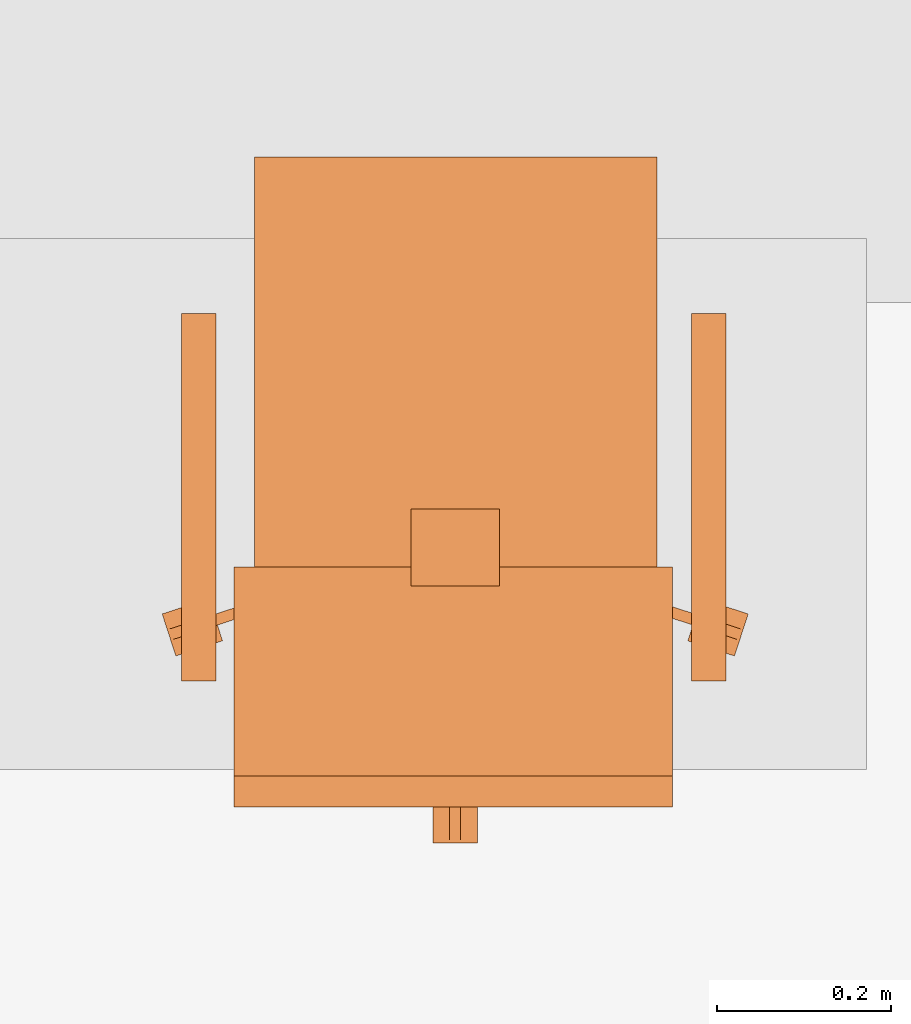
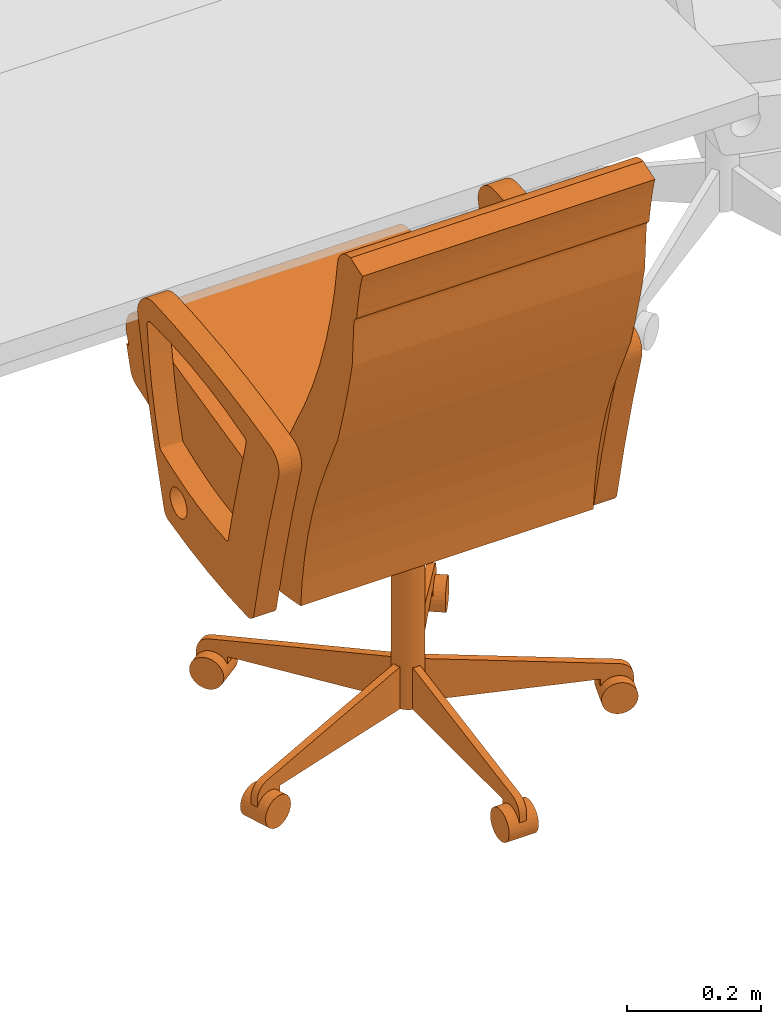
# One storey, part 31 of 142: 1 proxy.
"""IFC2X3 building model written with IfcOpenShell, lengths in feet."""

from ifc_helpers import new_model, entity, si_unit, converted_unit, derived_unit, direction, frame, frame_2d, origin, place, context, subcontext, project, spatial, polyline, circle_curve, parameter, trimmed, segment, composite_curve, circle, outline, extrude, source, transform, mapped, type_object, type_shapes, element, save


model = new_model("IFC2X3")

# Units and contexts
model_context = context("Model", 3, precision=0.0001, world=origin(), true_north=direction((6.12303176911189e-17, 1.0)))
body_context = subcontext(model_context, "Body", "Model", "MODEL_VIEW")
ifc_project = project(units=[converted_unit("LENGTHUNIT", "FOOT", entity("IfcRatioMeasure", 0.3048), si_unit("LENGTHUNIT", "METRE"), dimensions=[1, 0, 0, 0, 0, 0, 0]), converted_unit("AREAUNIT", "SQUARE FOOT", entity("IfcRatioMeasure", 0.09290304), si_unit("AREAUNIT", "SQUARE_METRE"), dimensions=[2, 0, 0, 0, 0, 0, 0]), converted_unit("VOLUMEUNIT", "CUBIC FOOT", entity("IfcRatioMeasure", 0.028316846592), si_unit("VOLUMEUNIT", "CUBIC_METRE"), dimensions=[3, 0, 0, 0, 0, 0, 0]), converted_unit("PLANEANGLEUNIT", "DEGREE", entity("IfcRatioMeasure", 0.0174532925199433), si_unit("PLANEANGLEUNIT", "RADIAN"), dimensions=[0, 0, 0, 0, 0, 0, 0]), si_unit("MASSUNIT", "GRAM", prefix="KILO"), derived_unit("MASSDENSITYUNIT", [(si_unit("MASSUNIT", "GRAM", prefix="KILO"), 1), (si_unit("LENGTHUNIT", "METRE"), -3)]), si_unit("TIMEUNIT", "SECOND"), si_unit("FREQUENCYUNIT", "HERTZ"), si_unit("THERMODYNAMICTEMPERATUREUNIT", "DEGREE_CELSIUS"), derived_unit("THERMALTRANSMITTANCEUNIT", [(si_unit("MASSUNIT", "GRAM", prefix="KILO"), 1), (si_unit("THERMODYNAMICTEMPERATUREUNIT", "KELVIN"), -1), (si_unit("TIMEUNIT", "SECOND"), -3)]), derived_unit("VOLUMETRICFLOWRATEUNIT", [(si_unit("LENGTHUNIT", "METRE"), 3), (si_unit("TIMEUNIT", "SECOND"), -1)]), si_unit("ELECTRICCURRENTUNIT", "AMPERE"), si_unit("ELECTRICVOLTAGEUNIT", "VOLT"), si_unit("POWERUNIT", "WATT"), si_unit("FORCEUNIT", "NEWTON"), si_unit("ILLUMINANCEUNIT", "LUX"), si_unit("LUMINOUSFLUXUNIT", "LUMEN"), si_unit("LUMINOUSINTENSITYUNIT", "CANDELA"), derived_unit("USERDEFINED", [(si_unit("MASSUNIT", "GRAM", prefix="KILO"), -1), (si_unit("LENGTHUNIT", "METRE"), -2), (si_unit("TIMEUNIT", "SECOND"), 3), (si_unit("LUMINOUSFLUXUNIT", "LUMEN"), 1)]), derived_unit("LINEARVELOCITYUNIT", [(si_unit("LENGTHUNIT", "METRE"), 1), (si_unit("TIMEUNIT", "SECOND"), -1)]), si_unit("PRESSUREUNIT", "PASCAL"), derived_unit("USERDEFINED", [(si_unit("LENGTHUNIT", "METRE"), -2), (si_unit("MASSUNIT", "GRAM", prefix="KILO"), 1), (si_unit("TIMEUNIT", "SECOND"), -2)])], contexts=[model_context])

# Site, building, storey, space
site_placement = place(None, origin())
site = spatial("IfcSite", under=ifc_project, at=site_placement, Name="Default", CompositionType="ELEMENT")
building_placement = place(site_placement, origin())
building = spatial("IfcBuilding", under=site, at=building_placement, Name="OUTPATIENT / PACT CLINIC (Ch. 265)", CompositionType="ELEMENT")
storey_placement = place(building_placement, origin())
storey = spatial("IfcBuildingStorey", under=building, at=storey_placement, Name="LEVEL 1", CompositionType="ELEMENT", Elevation=0.0)
space_placement = place(storey_placement, origin())
space = spatial("IfcSpace", under=storey, at=space_placement, Name="WRTM1", CompositionType="ELEMENT", InteriorOrExteriorSpace="INTERNAL")

# Proxy
building_element_proxy_type = type_object("IfcBuildingElementProxyType", Name="F0220 - Chair, Conference", PredefinedType="NOTDEFINED")
shared_shape = source(origin(), body_context, "Body", "SweptSolid", [
    extrude(outline(composite_curve([segment(trimmed(circle_curve(frame_2d((-0.548378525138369, -0.54006253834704), x_axis=(1.0, 0.0)), 0.156713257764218), [parameter(187.136710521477)], [parameter(273.006994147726)], True, "PARAMETER"), True, "CONTINUOUS"), segment(trimmed(circle_curve(frame_2d((-0.866637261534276, 5.51852508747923), x_axis=(1.0, 0.0)), 6.22365422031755), [parameter(273.006994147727)], [parameter(283.63517906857)], True, "PARAMETER"), True, "CONTINUOUS"), segment(trimmed(circle_curve(frame_2d((0.575436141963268, -0.426318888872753), x_axis=(1.0, 0.0)), 0.106404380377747), [parameter(283.63517906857)], [parameter(16.3648209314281)], True, "PARAMETER"), True, "CONTINUOUS"), segment(trimmed(circle_curve(frame_2d((12.2871693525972, 3.01281927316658), x_axis=(1.0, 0.0)), 12.0998385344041), [parameter(191.635179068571)], [parameter(196.364820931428)], True, "PARAMETER"), False, "CONTINUOUS"), segment(trimmed(circle_curve(frame_2d((0.374732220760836, 0.559015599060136), x_axis=(1.0, 0.0)), 0.0627049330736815), [parameter(12.4480385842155)], [parameter(91.6711811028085)], True, "PARAMETER"), True, "CONTINUOUS"), segment(trimmed(circle_curve(frame_2d((0.478250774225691, -2.98907031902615), x_axis=(1.0, 0.0)), 3.61230065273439), [parameter(91.6711811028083)], [parameter(104.057744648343)], True, "PARAMETER"), True, "CONTINUOUS"), segment(trimmed(circle_curve(frame_2d((-0.383994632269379, 0.454418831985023), x_axis=(1.0, 0.0)), 0.0625), [parameter(104.057744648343)], [parameter(162.816884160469)], True, "PARAMETER"), True, "CONTINUOUS"), segment(trimmed(circle_curve(frame_2d((9.14984606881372, -2.49371945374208), x_axis=(1.0, 0.0)), 10.0417603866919), [parameter(162.816884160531)], [parameter(168.894605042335)], True, "PARAMETER"), True, "CONTINUOUS")], self_intersect=False), holes=[composite_curve([segment(trimmed(circle_curve(frame_2d((12.2923776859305, 3.01281927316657), x_axis=(1.0, 0.0)), 12.4123385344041), [parameter(192.741870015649)], [parameter(195.991286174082)], True, "PARAMETER"), True, "CONTINUOUS"), segment(trimmed(circle_curve(frame_2d((0.340324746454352, -0.412409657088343), x_axis=(1.0, 0.0)), 0.0208333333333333), [parameter(286.604073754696)], [parameter(15.9912861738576)], True, "PARAMETER"), False, "CONTINUOUS"), segment(trimmed(circle_curve(frame_2d((-0.540439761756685, 2.54128905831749), x_axis=(1.0, 0.0)), 3.1030536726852), [parameter(269.369775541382)], [parameter(286.604073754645)], True, "PARAMETER"), False, "CONTINUOUS"), segment(trimmed(circle_curve(frame_2d((-0.574176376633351, -0.525693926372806), x_axis=(1.0, 0.0)), 0.0358851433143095), [parameter(161.887842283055)], [parameter(269.369775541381)], True, "PARAMETER"), False, "CONTINUOUS"), segment(trimmed(circle_curve(frame_2d((2.4385579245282, -0.768421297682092), x_axis=(1.0, 0.0)), 3.05740066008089), [parameter(162.893812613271)], [parameter(175.236734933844)], True, "PARAMETER"), False, "CONTINUOUS"), segment(trimmed(circle_curve(frame_2d((-0.469775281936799, 0.128159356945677), x_axis=(1.0, 0.0)), 0.0140798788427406), [parameter(113.070266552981)], [parameter(168.803309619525)], True, "PARAMETER"), False, "CONTINUOUS"), segment(trimmed(circle_curve(frame_2d((0.277251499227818, -1.62574197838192), x_axis=(1.0, 0.0)), 1.92044262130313), [parameter(93.3759131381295)], [parameter(113.070266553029)], True, "PARAMETER"), False, "CONTINUOUS"), segment(trimmed(circle_curve(frame_2d((0.165389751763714, 0.270570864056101), x_axis=(1.0, 0.0)), 0.0208333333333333), [parameter(12.7418700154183)], [parameter(93.375913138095)], True, "PARAMETER"), False, "CONTINUOUS")], self_intersect=False), composite_curve([segment(trimmed(circle_curve(frame_2d((-0.300575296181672, 0.351220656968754), x_axis=(1.0, 0.0)), 0.0833333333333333), [parameter(180.0)], [parameter(0.0)], True, "PARAMETER"), False, "CONTINUOUS"), segment(trimmed(circle_curve(frame_2d((-0.300575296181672, 0.351220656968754), x_axis=(1.0, 0.0)), 0.0833333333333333), [parameter(3.05333249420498e-13)], [parameter(180.0)], True, "PARAMETER"), False, "CONTINUOUS")], self_intersect=False)]), frame((-1.03331274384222, -0.0541567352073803, 1.78474215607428), z_axis=(1.0, 0.0, 0.0), x_axis=(0.0, -1.0, 0.0)), (0.0, 0.0, 1.0), 0.128812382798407),
    extrude(outline(composite_curve([segment(trimmed(circle_curve(frame_2d((-0.548378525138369, -0.54006253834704), x_axis=(1.0, 0.0)), 0.156713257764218), [parameter(187.136710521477)], [parameter(273.006994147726)], True, "PARAMETER"), True, "CONTINUOUS"), segment(trimmed(circle_curve(frame_2d((-0.866637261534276, 5.51852508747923), x_axis=(1.0, 0.0)), 6.22365422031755), [parameter(273.006994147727)], [parameter(283.63517906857)], True, "PARAMETER"), True, "CONTINUOUS"), segment(trimmed(circle_curve(frame_2d((0.575436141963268, -0.426318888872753), x_axis=(1.0, 0.0)), 0.106404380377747), [parameter(283.63517906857)], [parameter(16.3648209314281)], True, "PARAMETER"), True, "CONTINUOUS"), segment(trimmed(circle_curve(frame_2d((12.2871693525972, 3.01281927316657), x_axis=(1.0, 0.0)), 12.0998385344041), [parameter(191.635179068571)], [parameter(196.364820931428)], True, "PARAMETER"), False, "CONTINUOUS"), segment(trimmed(circle_curve(frame_2d((0.374732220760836, 0.559015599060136), x_axis=(1.0, 0.0)), 0.0627049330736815), [parameter(12.4480385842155)], [parameter(91.6711811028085)], True, "PARAMETER"), True, "CONTINUOUS"), segment(trimmed(circle_curve(frame_2d((0.478250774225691, -2.98907031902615), x_axis=(1.0, 0.0)), 3.61230065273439), [parameter(91.6711811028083)], [parameter(104.057744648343)], True, "PARAMETER"), True, "CONTINUOUS"), segment(trimmed(circle_curve(frame_2d((-0.383994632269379, 0.454418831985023), x_axis=(1.0, 0.0)), 0.0625), [parameter(104.057744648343)], [parameter(162.816884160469)], True, "PARAMETER"), True, "CONTINUOUS"), segment(trimmed(circle_curve(frame_2d((9.14984606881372, -2.49371945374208), x_axis=(1.0, 0.0)), 10.0417603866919), [parameter(162.816884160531)], [parameter(168.894605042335)], True, "PARAMETER"), True, "CONTINUOUS")], self_intersect=False), holes=[composite_curve([segment(trimmed(circle_curve(frame_2d((12.2923776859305, 3.01281927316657), x_axis=(1.0, 0.0)), 12.4123385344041), [parameter(192.741870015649)], [parameter(195.991286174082)], True, "PARAMETER"), True, "CONTINUOUS"), segment(trimmed(circle_curve(frame_2d((0.340324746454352, -0.412409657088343), x_axis=(1.0, 0.0)), 0.0208333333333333), [parameter(286.604073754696)], [parameter(15.9912861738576)], True, "PARAMETER"), False, "CONTINUOUS"), segment(trimmed(circle_curve(frame_2d((-0.540439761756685, 2.54128905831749), x_axis=(1.0, 0.0)), 3.1030536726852), [parameter(269.369775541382)], [parameter(286.604073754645)], True, "PARAMETER"), False, "CONTINUOUS"), segment(trimmed(circle_curve(frame_2d((-0.574176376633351, -0.525693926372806), x_axis=(1.0, 0.0)), 0.0358851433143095), [parameter(161.887842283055)], [parameter(269.369775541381)], True, "PARAMETER"), False, "CONTINUOUS"), segment(trimmed(circle_curve(frame_2d((2.4385579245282, -0.768421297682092), x_axis=(1.0, 0.0)), 3.05740066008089), [parameter(162.893812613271)], [parameter(175.236734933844)], True, "PARAMETER"), False, "CONTINUOUS"), segment(trimmed(circle_curve(frame_2d((-0.469775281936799, 0.128159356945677), x_axis=(1.0, 0.0)), 0.0140798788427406), [parameter(113.070266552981)], [parameter(168.803309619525)], True, "PARAMETER"), False, "CONTINUOUS"), segment(trimmed(circle_curve(frame_2d((0.277251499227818, -1.62574197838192), x_axis=(1.0, 0.0)), 1.92044262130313), [parameter(93.3759131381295)], [parameter(113.070266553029)], True, "PARAMETER"), False, "CONTINUOUS"), segment(trimmed(circle_curve(frame_2d((0.165389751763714, 0.270570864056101), x_axis=(1.0, 0.0)), 0.0208333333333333), [parameter(12.7418700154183)], [parameter(93.375913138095)], True, "PARAMETER"), False, "CONTINUOUS")], self_intersect=False), composite_curve([segment(trimmed(circle_curve(frame_2d((-0.300575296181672, 0.351220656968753), x_axis=(1.0, 0.0)), 0.0833333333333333), [parameter(180.0)], [parameter(0.0)], True, "PARAMETER"), False, "CONTINUOUS"), segment(trimmed(circle_curve(frame_2d((-0.300575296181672, 0.351220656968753), x_axis=(1.0, 0.0)), 0.0833333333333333), [parameter(3.05333249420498e-13)], [parameter(180.0)], True, "PARAMETER"), False, "CONTINUOUS")], self_intersect=False)]), frame((0.889516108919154, -0.0541567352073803, 1.78474215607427), z_axis=(1.0, 0.0, 0.0), x_axis=(0.0, -1.0, 0.0)), (0.0, 0.0, 1.0), 0.128812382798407),
    extrude(outline(composite_curve([segment(trimmed(circle_curve(frame_2d((0.770862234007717, -1.97589519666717), x_axis=(1.0, 0.0)), 2.24250574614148), [parameter(83.7744840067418)], [parameter(104.587152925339)], True, "PARAMETER"), True, "CONTINUOUS"), segment(trimmed(circle_curve(frame_2d((2.30952075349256, -7.88833070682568), x_axis=(1.0, 0.0)), 8.35187262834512), [parameter(104.587152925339)], [parameter(109.615059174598)], True, "PARAMETER"), True, "CONTINUOUS"), segment(trimmed(circle_curve(frame_2d((-0.466775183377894, -0.0980657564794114), x_axis=(1.0, 0.0)), 0.0816823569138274), [parameter(109.6150591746)], [parameter(157.671413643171)], True, "PARAMETER"), True, "CONTINUOUS"), segment(trimmed(circle_curve(frame_2d((0.971574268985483, -0.5925380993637), x_axis=(1.0, 0.0)), 1.60252010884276), [parameter(160.857176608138)], [parameter(166.076927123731)], True, "PARAMETER"), True, "CONTINUOUS"), segment(trimmed(circle_curve(frame_2d((-0.579633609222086, -0.207989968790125), x_axis=(1.0, 0.0)), 0.00435768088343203), [parameter(166.076927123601)], [parameter(280.378705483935)], True, "PARAMETER"), True, "CONTINUOUS"), segment(trimmed(circle_curve(frame_2d((16.5125965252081, -93.5315619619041), x_axis=(1.0, 0.0)), 94.871526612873), [parameter(99.4235676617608)], [parameter(100.378705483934)], True, "PARAMETER"), False, "CONTINUOUS"), segment(trimmed(circle_curve(frame_2d((1.87003600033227, -0.000965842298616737), x_axis=(1.0, 0.0)), 0.89298195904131), [parameter(163.451060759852)], [parameter(176.106880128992)], True, "PARAMETER"), False, "CONTINUOUS")], self_intersect=False)), frame((-0.758282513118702, 0.647436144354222, 1.48104866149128), z_axis=(1.0, 0.0, 0.0), x_axis=(0.0, -1.0, 0.0)), (0.0, 0.0, 1.0), 1.51656502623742),
    extrude(outline(composite_curve([segment(trimmed(circle_curve(frame_2d((16.4660541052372, -93.3276059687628), x_axis=(1.0, 0.0)), 94.871526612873), [parameter(99.4253791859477)], [parameter(100.368473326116)], True, "PARAMETER"), True, "CONTINUOUS"), segment(polyline([(-0.608725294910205, -0.00526957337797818), (-0.631085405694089, -0.0702080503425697)]), True, "CONTINUOUS"), segment(trimmed(circle_curve(frame_2d((-0.507608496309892, -0.112724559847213), x_axis=(1.0, 0.0)), 0.130591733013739), [parameter(161.000000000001)], [parameter(282.525711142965)], True, "PARAMETER"), True, "CONTINUOUS"), segment(polyline([(-0.479286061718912, -0.240208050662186), (0.789483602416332, 0.0525572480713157)]), True, "CONTINUOUS"), segment(trimmed(circle_curve(frame_2d((0.748071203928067, 0.23202795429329), x_axis=(1.0, 0.0)), 0.184186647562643), [parameter(282.993429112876)], [parameter(9.72113802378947)], True, "PARAMETER"), True, "CONTINUOUS")], self_intersect=False)), frame((-0.758282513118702, 0.600893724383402, 1.6850046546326), z_axis=(1.0, 0.0, 0.0), x_axis=(0.0, -1.0, 0.0)), (0.0, 0.0, 1.0), 1.51656502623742),
    extrude(outline(composite_curve([segment(trimmed(circle_curve(frame_2d((0.782331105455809, -5.68137094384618), x_axis=(-0.420119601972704, 0.907468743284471)), 5.89579235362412), [parameter(342.407441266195)], [parameter(347.674731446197)], True, "PARAMETER"), True, "CONTINUOUS"), segment(polyline([(-0.495446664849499, 0.0742916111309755), (-0.742416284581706, -0.0223565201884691)]), True, "CONTINUOUS"), segment(trimmed(circle_curve(frame_2d((-0.761539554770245, 0.0265100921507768), x_axis=(-0.420119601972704, 0.907468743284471)), 0.0524751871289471), [parameter(121.399025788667)], [parameter(176.530061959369)], True, "PARAMETER"), False, "CONTINUOUS"), segment(trimmed(circle_curve(frame_2d((-0.772508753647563, -0.152384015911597), x_axis=(-0.420119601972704, 0.907468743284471)), 0.136484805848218), [parameter(342.817239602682)], [parameter(358.256726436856)], True, "PARAMETER"), True, "CONTINUOUS"), segment(polyline([(-0.82605432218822, -0.0268412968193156), (-0.939530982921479, -0.0580534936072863)]), True, "CONTINUOUS"), segment(trimmed(circle_curve(frame_2d((-1.17061269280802, 0.782079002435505), x_axis=(-0.420119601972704, 0.907468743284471)), 0.871333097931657), [parameter(161.216169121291)], [parameter(170.536983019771)], True, "PARAMETER"), False, "CONTINUOUS"), segment(trimmed(circle_curve(frame_2d((-1.8181528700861, -0.2248215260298), x_axis=(-0.420119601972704, 0.907468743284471)), 0.752717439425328), [parameter(246.521848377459)], [parameter(255.910489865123)], True, "PARAMETER"), False, "CONTINUOUS"), segment(trimmed(circle_curve(frame_2d((-0.949337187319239, -0.155867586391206), x_axis=(-0.420119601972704, 0.907468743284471)), 0.127016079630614), [parameter(88.8492703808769)], [parameter(173.15072961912)], True, "PARAMETER"), True, "CONTINUOUS"), segment(trimmed(circle_curve(frame_2d((0.0257178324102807, -3.15804982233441), x_axis=(-0.420119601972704, 0.907468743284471)), 3.02953749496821), [parameter(328.849270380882)], [parameter(353.150729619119)], True, "PARAMETER"), False, "CONTINUOUS"), segment(trimmed(circle_curve(frame_2d((0.483690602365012, 0.984520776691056), x_axis=(-0.420119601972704, 0.907468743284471)), 1.13827130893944), [parameter(148.849270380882)], [parameter(180.0)], True, "PARAMETER"), True, "CONTINUOUS"), segment(trimmed(circle_curve(frame_2d((1.07518053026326, -0.33138149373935), x_axis=(-0.420119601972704, 0.907468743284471)), 0.304789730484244), [parameter(317.298982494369)], [parameter(356.976233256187)], True, "PARAMETER"), False, "CONTINUOUS"), segment(trimmed(circle_curve(frame_2d((1.31918409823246, -0.14741320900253), x_axis=(-0.420119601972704, 0.907468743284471)), 0.184186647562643), [parameter(355.215711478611)], [parameter(29.9715875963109)], True, "PARAMETER"), False, "CONTINUOUS"), segment(trimmed(circle_curve(frame_2d((0.841027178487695, 0.816299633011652), x_axis=(-0.420119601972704, 0.907468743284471)), 0.89298195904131), [parameter(182.849969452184)], [parameter(196.548939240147)], True, "PARAMETER"), True, "CONTINUOUS"), segment(trimmed(circle_curve(frame_2d((-0.48937503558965, -1.01087273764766), x_axis=(-0.420119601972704, 0.907468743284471)), 2.24250574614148), [parameter(276.225515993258)], [parameter(282.457471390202)], True, "PARAMETER"), True, "CONTINUOUS"), segment(trimmed(circle_curve(frame_2d((0.339089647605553, 2.78255473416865), x_axis=(-0.420119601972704, 0.907468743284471)), 2.61526502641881), [parameter(155.15786130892)], [parameter(176.584898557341)], True, "PARAMETER"), False, "CONTINUOUS"), segment(polyline([(0.339089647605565, 0.167289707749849), (0.0383310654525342, 0.167289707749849)]), True, "CONTINUOUS")], self_intersect=False)), frame((-0.836149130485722, -0.835165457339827, 2.58816385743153), z_axis=(-1.0, 0.0, 0.0), x_axis=(0.0, 0.420119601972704, -0.907468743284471)), (0.0, 0.0, -1.0), 1.65266976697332),
    extrude(circle(Radius=0.0833333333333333, at=frame_2d((0.0, -1.11022302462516e-16), x_axis=(1.0, 0.0))), frame((-0.00206593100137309, -0.212136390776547, 0.173534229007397)), (0.0, 0.0, 1.0), 1.0846174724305),
    extrude(circle(Radius=0.0925205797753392, at=frame_2d((0.0, -1.52655665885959e-16), x_axis=(1.0, 0.0))), frame((0.962866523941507, -0.613283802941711, 0.0902008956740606), z_axis=(0.309016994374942, 0.951056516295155, 0.0), x_axis=(0.951056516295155, -0.309016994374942, 0.0)), (0.0, 0.0, 1.0), 0.166666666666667),
    extrude(outline(composite_curve([segment(polyline([(-0.29506616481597, -0.0510253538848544), (0.663267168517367, -0.0510253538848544)]), True, "CONTINUOUS"), segment(polyline([(0.663267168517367, -0.0510253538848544), (0.663267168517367, 0.198974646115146)]), True, "CONTINUOUS"), segment(polyline([(0.663267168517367, 0.198974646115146), (0.579933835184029, 0.198974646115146)]), True, "CONTINUOUS"), segment(polyline([(0.579933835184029, 0.198974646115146), (-0.392870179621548, 0.027443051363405)]), True, "CONTINUOUS"), segment(trimmed(circle_curve(frame_2d((-0.378399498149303, -0.0546242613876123), x_axis=(-1.0, 0.0)), 0.0833333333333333), [parameter(280.0)], [parameter(0.0)], True, "PARAMETER"), True, "CONTINUOUS"), segment(polyline([(-0.461732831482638, -0.0546242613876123), (-0.461732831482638, -0.134358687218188)]), True, "CONTINUOUS"), segment(polyline([(-0.461732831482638, -0.134358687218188), (-0.29506616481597, -0.134358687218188)]), True, "CONTINUOUS"), segment(polyline([(-0.29506616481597, -0.134358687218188), (-0.29506616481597, -0.0510253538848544)]), True, "CONTINUOUS")], self_intersect=False)), frame((0.62230077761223, -0.436910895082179, 0.224559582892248), z_axis=(0.309016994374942, 0.951056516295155, 0.0), x_axis=(-0.951056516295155, 0.309016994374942, 0.0)), (0.0, 0.0, 1.0), 0.0416666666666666),
    extrude(circle(Radius=0.0925205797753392, at=frame_2d((0.0, -1.52655665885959e-16), x_axis=(1.0, 0.0))), frame((0.677628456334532, 0.581607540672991, 0.0902008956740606), z_axis=(-0.80901699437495, 0.58778525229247, 0.0), x_axis=(0.58778525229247, 0.80901699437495, 0.0)), (0.0, 0.0, 1.0), 0.166666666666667),
    extrude(outline(composite_curve([segment(polyline([(0.051025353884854, 0.295066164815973), (0.134358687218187, 0.295066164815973)]), True, "CONTINUOUS"), segment(polyline([(0.134358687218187, 0.295066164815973), (0.134358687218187, 0.461732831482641)]), True, "CONTINUOUS"), segment(polyline([(0.134358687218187, 0.461732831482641), (0.0546242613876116, 0.461732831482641)]), True, "CONTINUOUS"), segment(trimmed(circle_curve(frame_2d((0.0546242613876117, 0.378399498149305), x_axis=(0.0, 1.0)), 0.0833333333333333), [parameter(0.0)], [parameter(79.9999999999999)], True, "PARAMETER"), True, "CONTINUOUS"), segment(polyline([(-0.0274430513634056, 0.392870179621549), (-0.198974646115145, -0.579933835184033)]), True, "CONTINUOUS"), segment(polyline([(-0.198974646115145, -0.579933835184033), (-0.198974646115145, -0.66326716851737)]), True, "CONTINUOUS"), segment(polyline([(-0.198974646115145, -0.66326716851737), (0.0510253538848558, -0.66326716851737)]), True, "CONTINUOUS"), segment(polyline([(0.0510253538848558, -0.66326716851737), (0.051025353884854, 0.295066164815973)]), True, "CONTINUOUS")], self_intersect=False)), frame((0.370938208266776, 0.336703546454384, 0.224559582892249), z_axis=(0.80901699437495, -0.58778525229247, 0.0), x_axis=(0.0, 0.0, -1.0)), (0.0, 0.0, 1.0), 0.0416666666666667),
    extrude(circle(Radius=0.0925205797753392, at=frame_2d((0.0, -1.52655665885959e-16), x_axis=(1.0, 0.0))), frame((-0.681760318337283, 0.581607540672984, 0.0902008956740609), z_axis=(0.809016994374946, 0.587785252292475, 0.0), x_axis=(-0.587785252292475, 0.809016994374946, 0.0)), (0.0, 0.0, 1.0), 0.166666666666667),
    extrude(outline(composite_curve([segment(polyline([(0.0510253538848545, 0.29506616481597), (0.134358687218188, 0.29506616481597)]), True, "CONTINUOUS"), segment(polyline([(0.134358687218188, 0.29506616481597), (0.134358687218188, 0.461732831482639)]), True, "CONTINUOUS"), segment(polyline([(0.134358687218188, 0.461732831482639), (0.0546242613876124, 0.461732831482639)]), True, "CONTINUOUS"), segment(trimmed(circle_curve(frame_2d((0.0546242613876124, 0.378399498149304), x_axis=(0.0, 1.0)), 0.0833333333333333), [parameter(0.0)], [parameter(79.9999999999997)], True, "PARAMETER"), True, "CONTINUOUS"), segment(polyline([(-0.0274430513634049, 0.392870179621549), (-0.198974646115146, -0.57993383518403)]), True, "CONTINUOUS"), segment(polyline([(-0.198974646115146, -0.57993383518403), (-0.198974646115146, -0.663267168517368)]), True, "CONTINUOUS"), segment(polyline([(-0.198974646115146, -0.663267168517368), (0.0510253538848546, -0.663267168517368)]), True, "CONTINUOUS"), segment(polyline([(0.0510253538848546, -0.663267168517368), (0.0510253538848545, 0.29506616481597)]), True, "CONTINUOUS")], self_intersect=False)), frame((-0.408779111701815, 0.312212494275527, 0.224559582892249), z_axis=(0.809016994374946, 0.587785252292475, 0.0), x_axis=(0.0, 0.0, -1.0)), (0.0, 0.0, 1.0), 0.0416666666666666),
    extrude(circle(Radius=0.0925205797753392, at=frame_2d((0.0, -1.52655665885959e-16), x_axis=(1.0, 0.0))), frame((-0.966998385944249, -0.613283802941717, 0.0902008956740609), z_axis=(-0.309016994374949, 0.951056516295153, 0.0), x_axis=(-0.951056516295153, -0.309016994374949, 0.0)), (0.0, 0.0, 1.0), 0.166666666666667),
    extrude(outline(composite_curve([segment(polyline([(0.0510253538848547, 0.29506616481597), (0.134358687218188, 0.29506616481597)]), True, "CONTINUOUS"), segment(polyline([(0.134358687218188, 0.29506616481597), (0.134358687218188, 0.461732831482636)]), True, "CONTINUOUS"), segment(polyline([(0.134358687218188, 0.461732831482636), (0.0546242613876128, 0.461732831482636)]), True, "CONTINUOUS"), segment(trimmed(circle_curve(frame_2d((0.0546242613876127, 0.378399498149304), x_axis=(0.0, 1.0)), 0.0833333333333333), [parameter(0.0)], [parameter(79.9999999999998)], True, "PARAMETER"), True, "CONTINUOUS"), segment(polyline([(-0.0274430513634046, 0.392870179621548), (-0.198974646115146, -0.579933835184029)]), True, "CONTINUOUS"), segment(polyline([(-0.198974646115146, -0.579933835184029), (-0.198974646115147, -0.663267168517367)]), True, "CONTINUOUS"), segment(polyline([(-0.198974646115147, -0.663267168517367), (0.0510253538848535, -0.663267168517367)]), True, "CONTINUOUS"), segment(polyline([(0.0510253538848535, -0.663267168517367), (0.0510253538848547, 0.29506616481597)]), True, "CONTINUOUS")], self_intersect=False)), frame((-0.626432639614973, -0.436910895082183, 0.224559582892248), z_axis=(-0.309016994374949, 0.951056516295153, 0.0), x_axis=(0.0, 0.0, -1.0)), (0.0, 0.0, 1.0), 0.0416666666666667),
    extrude(circle(Radius=0.0925205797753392, at=frame_2d((9.00566595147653e-34, -1.52655665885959e-16), x_axis=(1.0, 0.0))), frame((-0.0853992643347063, -1.25380305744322, 0.0902008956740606), z_axis=(1.0, 0.0, 0.0), x_axis=(0.0, -1.0, 0.0)), (0.0, 0.0, 1.0), 0.166666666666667),
    extrude(outline(composite_curve([segment(polyline([(-0.29506616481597, -0.0510253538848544), (0.663267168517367, -0.0510253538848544)]), True, "CONTINUOUS"), segment(polyline([(0.663267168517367, -0.0510253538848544), (0.663267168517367, 0.198974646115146)]), True, "CONTINUOUS"), segment(polyline([(0.663267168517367, 0.198974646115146), (0.579933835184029, 0.198974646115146)]), True, "CONTINUOUS"), segment(polyline([(0.579933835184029, 0.198974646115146), (-0.392870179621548, 0.027443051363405)]), True, "CONTINUOUS"), segment(trimmed(circle_curve(frame_2d((-0.378399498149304, -0.0546242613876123), x_axis=(-1.0, 0.0)), 0.0833333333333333), [parameter(280.0)], [parameter(0.0)], True, "PARAMETER"), True, "CONTINUOUS"), segment(polyline([(-0.461732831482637, -0.0546242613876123), (-0.461732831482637, -0.134358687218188)]), True, "CONTINUOUS"), segment(polyline([(-0.461732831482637, -0.134358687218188), (-0.29506616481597, -0.134358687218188)]), True, "CONTINUOUS"), segment(polyline([(-0.29506616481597, -0.134358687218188), (-0.29506616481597, -0.0510253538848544)]), True, "CONTINUOUS")], self_intersect=False)), frame((-0.0228992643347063, -0.875403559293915, 0.224559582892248), z_axis=(1.0, 0.0, 0.0), x_axis=(0.0, 1.0, 0.0)), (0.0, 0.0, 1.0), 0.0416666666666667),
    extrude(outline(polyline([(-0.140470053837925, -0.149999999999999), (-0.0988033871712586, -0.149999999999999), (0.189871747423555, 0.0166666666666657), (0.189871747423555, 0.141666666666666), (-0.140470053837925, 0.141666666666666), (-0.140470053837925, -0.149999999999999)])), frame((-0.168732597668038, -0.228803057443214, 1.57571509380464), z_axis=(1.0, 0.0, 0.0), x_axis=(0.0, 0.0, -1.0)), (0.0, 0.0, 1.0), 0.333333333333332),
])
type_shapes(building_element_proxy_type, [shared_shape])
proxy_placement = place(space_placement, frame((413.810126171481, -901.163975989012, 0.0)))
element("IfcBuildingElementProxy", 1, at=proxy_placement, inside=space, type_object=building_element_proxy_type, Name="F0220 - Chair, Conference:F0220 - Chair, Conference", ObjectType="F0220 - Chair, Conference", context=body_context, shape_type="MappedRepresentation", body=[
    mapped(shared_shape, transform((0.0, 0.0, 0.0), scale=1.0)),
])

save(model, "model.ifc")
